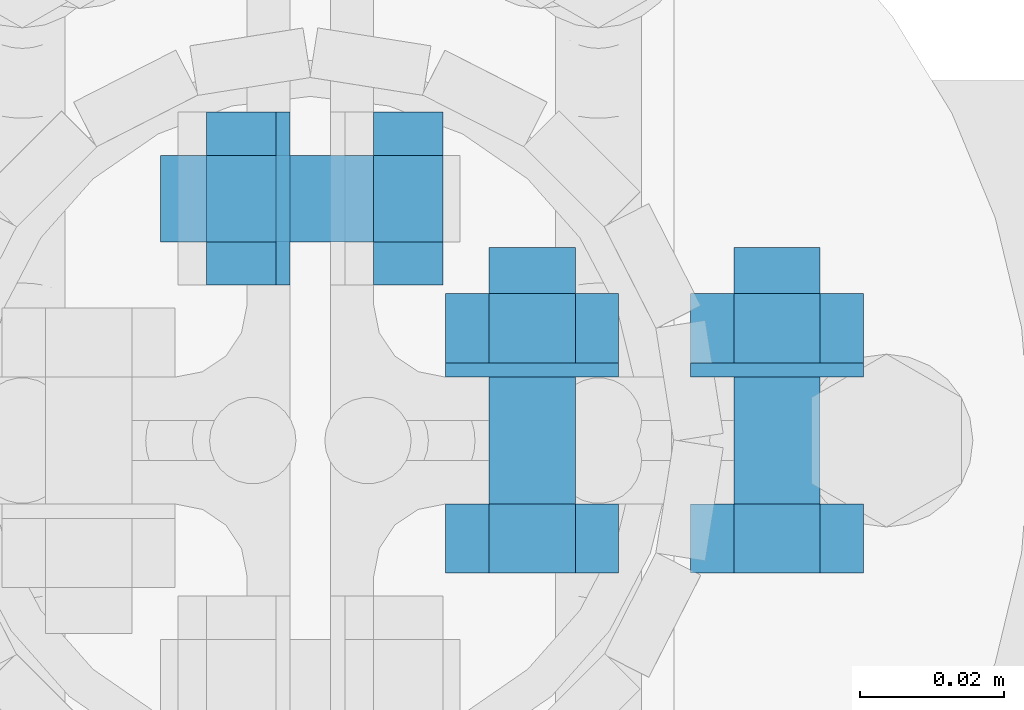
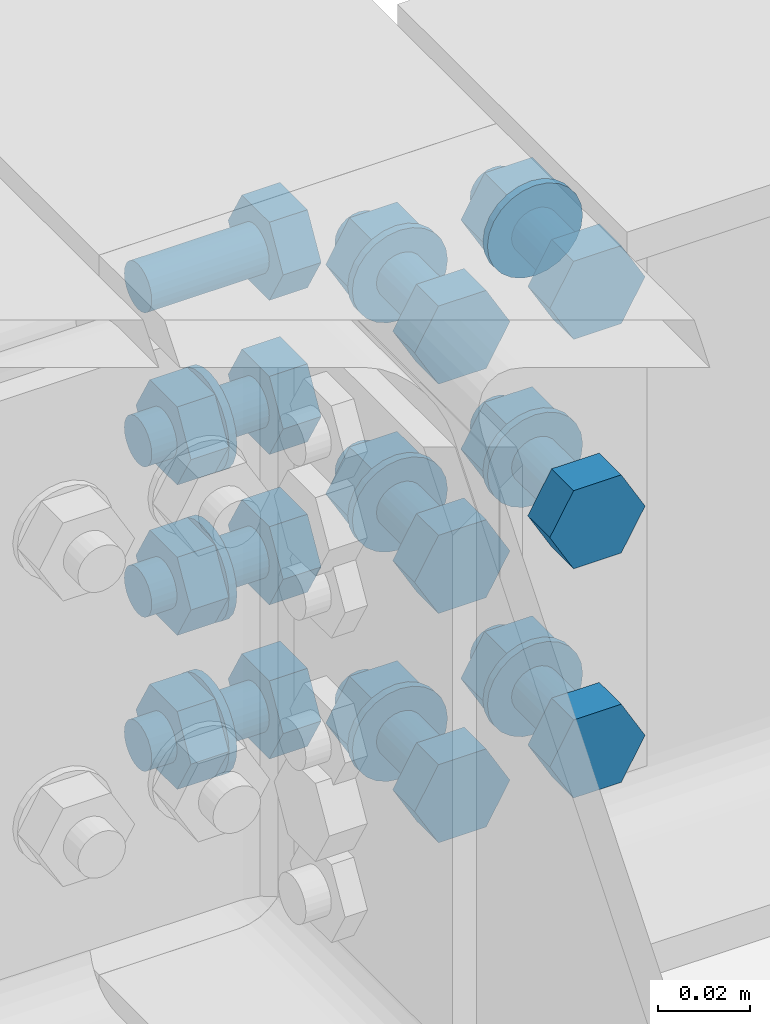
# One storey, part 55 of 84: 39 mechanical fasteners.
"""IFC4 building model written with IfcOpenShell, lengths in metres."""

from ifc_helpers import new_model, si_unit, frame, origin_with_axes, place, context, project, spatial, polyline, outline, extrude, type_object, element, save


model = new_model("IFC4")

# Units and contexts
model_context = context("Model", 3, precision=1e-05, world=origin_with_axes())
ifc_project = project(units=[si_unit("LENGTHUNIT", "METRE"), si_unit("AREAUNIT", "SQUARE_METRE"), si_unit("VOLUMEUNIT", "CUBIC_METRE"), si_unit("MASSUNIT", "GRAM", prefix="KILO"), si_unit("TIMEUNIT", "SECOND"), si_unit("PLANEANGLEUNIT", "RADIAN"), si_unit("SOLIDANGLEUNIT", "STERADIAN"), si_unit("THERMODYNAMICTEMPERATUREUNIT", "DEGREE_CELSIUS")], contexts=[model_context])

# Site, building, storey
placement_1 = place(None, origin_with_axes())
site = spatial("IfcSite", under=ifc_project, at=placement_1, Name="Italia", CompositionType="ELEMENT")
building = spatial("IfcBuilding", under=site, at=placement_1, Name="Tettoia", CompositionType="ELEMENT")
storey_placement = place(None, frame((0.0, 0.0, 4.199999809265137), z_axis=(0.0, 0.0, 1.0), x_axis=(1.0, 0.0, 0.0)))
storey = spatial("IfcBuildingStorey", under=building, at=storey_placement, Name="Storey 1", CompositionType="ELEMENT", Elevation=4.199999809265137)

# Mechanical fasteners
mechanical_fastener_type_1 = type_object("IfcMechanicalFastenerType", Name="Collegamento 0112_-016", PredefinedType="BOLT")
placement_2 = place(placement_1, origin_with_axes())
mechanical_fastener_1_placement = place(placement_2, origin_with_axes())
element("IfcMechanicalFastener", 1, at=mechanical_fastener_1_placement, inside=storey, type_object=mechanical_fastener_type_1, Name="Collegamento 0112_-016", NominalDiameter=0.024, context=model_context, shape_type="SweptSolid", body=[
    extrude(outline(polyline([(0.0, 0.0), (-0.000409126, -0.00310564), (-0.00160789, -0.00600004), (-0.00351477, -0.00848532), (-0.00600004, -0.0103922), (-0.00889444, -0.011591), (-0.0120001, -0.0120001), (-0.0151057, -0.011591), (-0.0180001, -0.0103922), (-0.0204854, -0.00848532), (-0.0223923, -0.00600004), (-0.023591, -0.00310564), (-0.0240002, 0.0), (-0.023591, 0.00310564), (-0.0223923, 0.00600004), (-0.0204854, 0.00848532), (-0.0180001, 0.0103922), (-0.0151057, 0.011591), (-0.0120001, 0.0120001), (-0.00889444, 0.011591), (-0.00600004, 0.0103922), (-0.00351477, 0.00848532), (-0.00160789, 0.00600004), (-0.000409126, 0.00310564), (0.0, 0.0)])), frame((4.1468, 13.9608, 4.361), z_axis=(0.0, -1.0, 0.0), x_axis=(1.0, 0.0, 0.0)), (0.0, 0.0, 1.0), 0.00200081),
])
mechanical_fastener_type_2 = type_object("IfcMechanicalFastenerType", Name="Collegamento 0112_-016", PredefinedType="BOLT")
mechanical_fastener_2_placement = place(placement_2, origin_with_axes())
element("IfcMechanicalFastener", 2, at=mechanical_fastener_2_placement, inside=storey, type_object=mechanical_fastener_type_2, Name="Collegamento 0112_-016", NominalDiameter=0.0119999, context=model_context, shape_type="SweptSolid", body=[
    extrude(outline(polyline([(0.0, 0.0), (-0.0120001, 0.0), (-0.0180001, 0.0103927), (-0.0120001, 0.0207849), (0.0, 0.0207849), (0.00600004, 0.0103927), (0.0, 0.0)])), frame((4.1068, 13.9412, 4.22861), z_axis=(0.0, -1.0, 0.0), x_axis=(1.0, 0.0, 0.0)), (0.0, 0.0, 1.0), 0.00960064),
])
mechanical_fastener_type_3 = type_object("IfcMechanicalFastenerType", Name="Collegamento 0112_-016", PredefinedType="BOLT")
mechanical_fastener_3_placement = place(placement_2, origin_with_axes())
element("IfcMechanicalFastener", 3, at=mechanical_fastener_3_placement, inside=storey, type_object=mechanical_fastener_type_3, Name="Collegamento 0112_-016", NominalDiameter=0.012, context=model_context, shape_type="SweptSolid", body=[
    extrude(outline(polyline([(0.0, 0.0), (-0.000204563, -0.00155306), (-0.000803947, -0.00299978), (-0.00175762, -0.00424242), (-0.00300026, -0.00519609), (-0.00444698, -0.00579548), (-0.00600004, -0.00600004), (-0.0075531, -0.00579548), (-0.00899982, -0.00519609), (-0.0102425, -0.00424242), (-0.0111961, -0.00299978), (-0.0117955, -0.00155306), (-0.0120001, 0.0), (-0.0117955, 0.00155306), (-0.0111961, 0.00299978), (-0.0102425, 0.00424242), (-0.00899982, 0.00519609), (-0.0075531, 0.00579548), (-0.00600004, 0.00600004), (-0.00444698, 0.00579548), (-0.00300026, 0.00519609), (-0.00175762, 0.00424242), (-0.000803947, 0.00299978), (-0.000204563, 0.00155306), (0.0, 0.0)])), frame((4.1068, 13.9768, 4.239), z_axis=(0.0, -1.0, 0.0), x_axis=(1.0, 0.0, 0.0)), (0.0, 0.0, 1.0), 0.0355997),
])
mechanical_fastener_type_4 = type_object("IfcMechanicalFastenerType", Name="Collegamento 0112_-016", PredefinedType="BOLT")
mechanical_fastener_4_placement = place(placement_2, origin_with_axes())
element("IfcMechanicalFastener", 4, at=mechanical_fastener_4_placement, inside=storey, type_object=mechanical_fastener_type_4, Name="Collegamento 0112_-016", NominalDiameter=0.0119999, context=model_context, shape_type="SweptSolid", body=[
    extrude(outline(polyline([(0.0, 0.0), (-0.0120001, 0.0), (-0.0180001, 0.0103927), (-0.0120001, 0.0207849), (0.0, 0.0207849), (0.00600004, 0.0103927), (0.0, 0.0)])), frame((4.1068, 13.9704, 4.22861), z_axis=(0.0, -1.0, 0.0), x_axis=(1.0, 0.0, 0.0)), (0.0, 0.0, 1.0), 0.00959969),
])
mechanical_fastener_type_5 = type_object("IfcMechanicalFastenerType", Name="Collegamento 0112_-016", PredefinedType="BOLT")
mechanical_fastener_5_placement = place(placement_2, origin_with_axes())
element("IfcMechanicalFastener", 5, at=mechanical_fastener_5_placement, inside=storey, type_object=mechanical_fastener_type_5, Name="Collegamento 0112_-016", NominalDiameter=0.024, context=model_context, shape_type="SweptSolid", body=[
    extrude(outline(polyline([(0.0, 0.0), (-0.000409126, -0.00310564), (-0.00160789, -0.00600004), (-0.00351477, -0.00848532), (-0.00600004, -0.0103922), (-0.00889444, -0.011591), (-0.0120001, -0.0120001), (-0.0151057, -0.011591), (-0.0180001, -0.0103922), (-0.0204854, -0.00848532), (-0.0223923, -0.00600004), (-0.023591, -0.00310564), (-0.0240002, 0.0), (-0.023591, 0.00310564), (-0.0223923, 0.00600004), (-0.0204854, 0.00848532), (-0.0180001, 0.0103922), (-0.0151057, 0.011591), (-0.0120001, 0.0120001), (-0.00889444, 0.011591), (-0.00600004, 0.0103922), (-0.00351477, 0.00848532), (-0.00160789, 0.00600004), (-0.000409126, 0.00310564), (0.0, 0.0)])), frame((4.1128, 13.9608, 4.239), z_axis=(0.0, -1.0, 0.0), x_axis=(1.0, 0.0, 0.0)), (0.0, 0.0, 1.0), 0.00200081),
])
mechanical_fastener_type_6 = type_object("IfcMechanicalFastenerType", Name="Collegamento 0112_-016", PredefinedType="BOLT")
mechanical_fastener_6_placement = place(placement_2, origin_with_axes())
element("IfcMechanicalFastener", 6, at=mechanical_fastener_6_placement, inside=storey, type_object=mechanical_fastener_type_6, Name="Collegamento 0112_-016", NominalDiameter=0.0119999, context=model_context, shape_type="SweptSolid", body=[
    extrude(outline(polyline([(0.0, 0.0), (-0.0120001, 0.0), (-0.0180001, 0.0103922), (-0.0120001, 0.0207844), (0.0, 0.0207844), (0.00600004, 0.0103922), (0.0, 0.0)])), frame((4.1068, 13.9412, 4.28961), z_axis=(0.0, -1.0, 0.0), x_axis=(1.0, 0.0, 0.0)), (0.0, 0.0, 1.0), 0.00960064),
])
mechanical_fastener_type_7 = type_object("IfcMechanicalFastenerType", Name="Collegamento 0112_-016", PredefinedType="BOLT")
mechanical_fastener_7_placement = place(placement_2, origin_with_axes())
element("IfcMechanicalFastener", 7, at=mechanical_fastener_7_placement, inside=storey, type_object=mechanical_fastener_type_7, Name="Collegamento 0112_-016", NominalDiameter=0.012, context=model_context, shape_type="SweptSolid", body=[
    extrude(outline(polyline([(0.0, 0.0), (-0.000204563, -0.00155306), (-0.000803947, -0.00299978), (-0.00175762, -0.00424242), (-0.00300026, -0.00519609), (-0.00444698, -0.00579548), (-0.00600004, -0.00600004), (-0.0075531, -0.00579548), (-0.00899982, -0.00519609), (-0.0102425, -0.00424242), (-0.0111961, -0.00299978), (-0.0117955, -0.00155306), (-0.0120001, 0.0), (-0.0117955, 0.00155306), (-0.0111961, 0.00299978), (-0.0102425, 0.00424242), (-0.00899982, 0.00519609), (-0.0075531, 0.00579548), (-0.00600004, 0.00600004), (-0.00444698, 0.00579548), (-0.00300026, 0.00519609), (-0.00175762, 0.00424242), (-0.000803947, 0.00299978), (-0.000204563, 0.00155306), (0.0, 0.0)])), frame((4.1068, 13.9768, 4.3), z_axis=(0.0, -1.0, 0.0), x_axis=(1.0, 0.0, 0.0)), (0.0, 0.0, 1.0), 0.0355997),
])
mechanical_fastener_type_8 = type_object("IfcMechanicalFastenerType", Name="Collegamento 0112_-016", PredefinedType="BOLT")
mechanical_fastener_8_placement = place(placement_2, origin_with_axes())
element("IfcMechanicalFastener", 8, at=mechanical_fastener_8_placement, inside=storey, type_object=mechanical_fastener_type_8, Name="Collegamento 0112_-016", NominalDiameter=0.0119999, context=model_context, shape_type="SweptSolid", body=[
    extrude(outline(polyline([(0.0, 0.0), (-0.0120001, 0.0), (-0.0180001, 0.0103922), (-0.0120001, 0.0207844), (0.0, 0.0207844), (0.00600004, 0.0103922), (0.0, 0.0)])), frame((4.1068, 13.9704, 4.28961), z_axis=(0.0, -1.0, 0.0), x_axis=(1.0, 0.0, 0.0)), (0.0, 0.0, 1.0), 0.00959969),
])
mechanical_fastener_type_9 = type_object("IfcMechanicalFastenerType", Name="Collegamento 0112_-016", PredefinedType="BOLT")
mechanical_fastener_9_placement = place(placement_2, origin_with_axes())
element("IfcMechanicalFastener", 9, at=mechanical_fastener_9_placement, inside=storey, type_object=mechanical_fastener_type_9, Name="Collegamento 0112_-016", NominalDiameter=0.024, context=model_context, shape_type="SweptSolid", body=[
    extrude(outline(polyline([(0.0, 0.0), (-0.000409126, -0.00310564), (-0.00160789, -0.00600004), (-0.00351477, -0.00848532), (-0.00600004, -0.0103922), (-0.00889444, -0.011591), (-0.0120001, -0.0120001), (-0.0151057, -0.011591), (-0.0180001, -0.0103922), (-0.0204854, -0.00848532), (-0.0223923, -0.00600004), (-0.023591, -0.00310564), (-0.0240002, 0.0), (-0.023591, 0.00310564), (-0.0223923, 0.00600004), (-0.0204854, 0.00848532), (-0.0180001, 0.0103922), (-0.0151057, 0.011591), (-0.0120001, 0.0120001), (-0.00889444, 0.011591), (-0.00600004, 0.0103922), (-0.00351477, 0.00848532), (-0.00160789, 0.00600004), (-0.000409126, 0.00310564), (0.0, 0.0)])), frame((4.1128, 13.9608, 4.3), z_axis=(0.0, -1.0, 0.0), x_axis=(1.0, 0.0, 0.0)), (0.0, 0.0, 1.0), 0.00200081),
])
mechanical_fastener_type_10 = type_object("IfcMechanicalFastenerType", Name="Collegamento 0112_-016", PredefinedType="BOLT")
mechanical_fastener_10_placement = place(placement_2, origin_with_axes())
element("IfcMechanicalFastener", 10, at=mechanical_fastener_10_placement, inside=storey, type_object=mechanical_fastener_type_10, Name="Collegamento 0112_-016", NominalDiameter=0.0119999, context=model_context, shape_type="SweptSolid", body=[
    extrude(outline(polyline([(0.0, 0.0), (-0.0120001, 0.0), (-0.0180001, 0.0103922), (-0.0120001, 0.0207849), (0.0, 0.0207849), (0.00600004, 0.0103922), (0.0, 0.0)])), frame((4.1068, 13.9412, 4.35061), z_axis=(0.0, -1.0, 0.0), x_axis=(1.0, 0.0, 0.0)), (0.0, 0.0, 1.0), 0.00960064),
])
mechanical_fastener_type_11 = type_object("IfcMechanicalFastenerType", Name="Collegamento 0112_-016", PredefinedType="BOLT")
mechanical_fastener_11_placement = place(placement_2, origin_with_axes())
element("IfcMechanicalFastener", 11, at=mechanical_fastener_11_placement, inside=storey, type_object=mechanical_fastener_type_11, Name="Collegamento 0112_-016", NominalDiameter=0.012, context=model_context, shape_type="SweptSolid", body=[
    extrude(outline(polyline([(0.0, 0.0), (-0.000204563, -0.00155306), (-0.000803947, -0.00299978), (-0.00175762, -0.00424242), (-0.00300026, -0.00519609), (-0.00444698, -0.00579548), (-0.00600004, -0.00600004), (-0.0075531, -0.00579548), (-0.00899982, -0.00519609), (-0.0102425, -0.00424242), (-0.0111961, -0.00299978), (-0.0117955, -0.00155306), (-0.0120001, 0.0), (-0.0117955, 0.00155306), (-0.0111961, 0.00299978), (-0.0102425, 0.00424242), (-0.00899982, 0.00519609), (-0.0075531, 0.00579548), (-0.00600004, 0.00600004), (-0.00444698, 0.00579548), (-0.00300026, 0.00519609), (-0.00175762, 0.00424242), (-0.000803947, 0.00299978), (-0.000204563, 0.00155306), (0.0, 0.0)])), frame((4.1068, 13.9768, 4.361), z_axis=(0.0, -1.0, 0.0), x_axis=(1.0, 0.0, 0.0)), (0.0, 0.0, 1.0), 0.0355997),
])
mechanical_fastener_type_12 = type_object("IfcMechanicalFastenerType", Name="Collegamento 0112_-016", PredefinedType="BOLT")
mechanical_fastener_12_placement = place(placement_2, origin_with_axes())
element("IfcMechanicalFastener", 12, at=mechanical_fastener_12_placement, inside=storey, type_object=mechanical_fastener_type_12, Name="Collegamento 0112_-016", NominalDiameter=0.0119999, context=model_context, shape_type="SweptSolid", body=[
    extrude(outline(polyline([(0.0, 0.0), (-0.0120001, 0.0), (-0.0180001, 0.0103922), (-0.0120001, 0.0207849), (0.0, 0.0207849), (0.00600004, 0.0103922), (0.0, 0.0)])), frame((4.1068, 13.9704, 4.35061), z_axis=(0.0, -1.0, 0.0), x_axis=(1.0, 0.0, 0.0)), (0.0, 0.0, 1.0), 0.00959969),
])
mechanical_fastener_type_13 = type_object("IfcMechanicalFastenerType", Name="Collegamento 0112_-016", PredefinedType="BOLT")
mechanical_fastener_13_placement = place(placement_2, origin_with_axes())
element("IfcMechanicalFastener", 13, at=mechanical_fastener_13_placement, inside=storey, type_object=mechanical_fastener_type_13, Name="Collegamento 0112_-016", NominalDiameter=0.024, context=model_context, shape_type="SweptSolid", body=[
    extrude(outline(polyline([(0.0, 0.0), (-0.000409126, -0.00310564), (-0.00160789, -0.00600004), (-0.00351477, -0.00848532), (-0.00600004, -0.0103922), (-0.00889444, -0.011591), (-0.0120001, -0.0120001), (-0.0151057, -0.011591), (-0.0180001, -0.0103922), (-0.0204854, -0.00848532), (-0.0223923, -0.00600004), (-0.023591, -0.00310564), (-0.0240002, 0.0), (-0.023591, 0.00310564), (-0.0223923, 0.00600004), (-0.0204854, 0.00848532), (-0.0180001, 0.0103922), (-0.0151057, 0.011591), (-0.0120001, 0.0120001), (-0.00889444, 0.011591), (-0.00600004, 0.0103922), (-0.00351477, 0.00848532), (-0.00160789, 0.00600004), (-0.000409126, 0.00310564), (0.0, 0.0)])), frame((4.1128, 13.9608, 4.361), z_axis=(0.0, -1.0, 0.0), x_axis=(1.0, 0.0, 0.0)), (0.0, 0.0, 1.0), 0.00200081),
])
mechanical_fastener_type_14 = type_object("IfcMechanicalFastenerType", Name="Collegamento 0112_-016", PredefinedType="BOLT")
mechanical_fastener_14_placement = place(placement_2, origin_with_axes())
element("IfcMechanicalFastener", 14, at=mechanical_fastener_14_placement, inside=storey, type_object=mechanical_fastener_type_14, Name="Collegamento 0112_-016", NominalDiameter=0.0119996, context=model_context, shape_type="SweptSolid", body=[
    extrude(outline(polyline([(0.0, 0.0), (-0.0119996, 0.0), (-0.0179996, 0.0103927), (-0.0119996, 0.0207849), (0.0, 0.0207849), (0.00600004, 0.0103927), (0.0, 0.0)])), frame((4.1408, 13.9412, 4.22861), z_axis=(0.0, -1.0, 0.0), x_axis=(1.0, 0.0, 0.0)), (0.0, 0.0, 1.0), 0.00960064),
])
mechanical_fastener_type_15 = type_object("IfcMechanicalFastenerType", Name="Collegamento 0112_-016", PredefinedType="BOLT")
mechanical_fastener_15_placement = place(placement_2, origin_with_axes())
element("IfcMechanicalFastener", 15, at=mechanical_fastener_15_placement, inside=storey, type_object=mechanical_fastener_type_15, Name="Collegamento 0112_-016", NominalDiameter=0.012, context=model_context, shape_type="SweptSolid", body=[
    extrude(outline(polyline([(0.0, 0.0), (-0.000204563, -0.00155306), (-0.000803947, -0.00299978), (-0.00175762, -0.00424242), (-0.00300026, -0.00519609), (-0.00444698, -0.00579548), (-0.00600004, -0.00600004), (-0.0075531, -0.00579548), (-0.00899982, -0.00519609), (-0.0102425, -0.00424242), (-0.0111961, -0.00299978), (-0.0117955, -0.00155306), (-0.0120001, 0.0), (-0.0117955, 0.00155306), (-0.0111961, 0.00299978), (-0.0102425, 0.00424242), (-0.00899982, 0.00519609), (-0.0075531, 0.00579548), (-0.00600004, 0.00600004), (-0.00444698, 0.00579548), (-0.00300026, 0.00519609), (-0.00175762, 0.00424242), (-0.000803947, 0.00299978), (-0.000204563, 0.00155306), (0.0, 0.0)])), frame((4.1408, 13.9768, 4.239), z_axis=(0.0, -1.0, 0.0), x_axis=(1.0, 0.0, 0.0)), (0.0, 0.0, 1.0), 0.0355997),
])
mechanical_fastener_type_16 = type_object("IfcMechanicalFastenerType", Name="Collegamento 0112_-016", PredefinedType="BOLT")
mechanical_fastener_16_placement = place(placement_2, origin_with_axes())
element("IfcMechanicalFastener", 16, at=mechanical_fastener_16_placement, inside=storey, type_object=mechanical_fastener_type_16, Name="Collegamento 0112_-016", NominalDiameter=0.0119996, context=model_context, shape_type="SweptSolid", body=[
    extrude(outline(polyline([(0.0, 0.0), (-0.0119996, 0.0), (-0.0179996, 0.0103927), (-0.0119996, 0.0207849), (0.0, 0.0207849), (0.00600004, 0.0103927), (0.0, 0.0)])), frame((4.1408, 13.9704, 4.22861), z_axis=(0.0, -1.0, 0.0), x_axis=(1.0, 0.0, 0.0)), (0.0, 0.0, 1.0), 0.00959969),
])
mechanical_fastener_type_17 = type_object("IfcMechanicalFastenerType", Name="Collegamento 0112_-016", PredefinedType="BOLT")
mechanical_fastener_17_placement = place(placement_2, origin_with_axes())
element("IfcMechanicalFastener", 17, at=mechanical_fastener_17_placement, inside=storey, type_object=mechanical_fastener_type_17, Name="Collegamento 0112_-016", NominalDiameter=0.024, context=model_context, shape_type="SweptSolid", body=[
    extrude(outline(polyline([(0.0, 0.0), (-0.000409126, -0.00310564), (-0.00160789, -0.00600004), (-0.00351477, -0.00848532), (-0.00600004, -0.0103922), (-0.00889444, -0.011591), (-0.0120001, -0.0120001), (-0.0151057, -0.011591), (-0.0180001, -0.0103922), (-0.0204854, -0.00848532), (-0.0223923, -0.00600004), (-0.023591, -0.00310564), (-0.0240002, 0.0), (-0.023591, 0.00310564), (-0.0223923, 0.00600004), (-0.0204854, 0.00848532), (-0.0180001, 0.0103922), (-0.0151057, 0.011591), (-0.0120001, 0.0120001), (-0.00889444, 0.011591), (-0.00600004, 0.0103922), (-0.00351477, 0.00848532), (-0.00160789, 0.00600004), (-0.000409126, 0.00310564), (0.0, 0.0)])), frame((4.1468, 13.9608, 4.239), z_axis=(0.0, -1.0, 0.0), x_axis=(1.0, 0.0, 0.0)), (0.0, 0.0, 1.0), 0.00200081),
])
mechanical_fastener_type_18 = type_object("IfcMechanicalFastenerType", Name="Collegamento 0112_-016", PredefinedType="BOLT")
mechanical_fastener_18_placement = place(placement_2, origin_with_axes())
element("IfcMechanicalFastener", 18, at=mechanical_fastener_18_placement, inside=storey, type_object=mechanical_fastener_type_18, Name="Collegamento 0112_-016", NominalDiameter=0.0119996, context=model_context, shape_type="SweptSolid", body=[
    extrude(outline(polyline([(0.0, 0.0), (-0.0119996, 0.0), (-0.0179996, 0.0103922), (-0.0119996, 0.0207844), (0.0, 0.0207844), (0.00600004, 0.0103922), (0.0, 0.0)])), frame((4.1408, 13.9412, 4.28961), z_axis=(0.0, -1.0, 0.0), x_axis=(1.0, 0.0, 0.0)), (0.0, 0.0, 1.0), 0.00960064),
])
mechanical_fastener_type_19 = type_object("IfcMechanicalFastenerType", Name="Collegamento 0112_-016", PredefinedType="BOLT")
mechanical_fastener_19_placement = place(placement_2, origin_with_axes())
element("IfcMechanicalFastener", 19, at=mechanical_fastener_19_placement, inside=storey, type_object=mechanical_fastener_type_19, Name="Collegamento 0112_-016", NominalDiameter=0.012, context=model_context, shape_type="SweptSolid", body=[
    extrude(outline(polyline([(0.0, 0.0), (-0.000204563, -0.00155306), (-0.000803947, -0.00299978), (-0.00175762, -0.00424242), (-0.00300026, -0.00519609), (-0.00444698, -0.00579548), (-0.00600004, -0.00600004), (-0.0075531, -0.00579548), (-0.00899982, -0.00519609), (-0.0102425, -0.00424242), (-0.0111961, -0.00299978), (-0.0117955, -0.00155306), (-0.0120001, 0.0), (-0.0117955, 0.00155306), (-0.0111961, 0.00299978), (-0.0102425, 0.00424242), (-0.00899982, 0.00519609), (-0.0075531, 0.00579548), (-0.00600004, 0.00600004), (-0.00444698, 0.00579548), (-0.00300026, 0.00519609), (-0.00175762, 0.00424242), (-0.000803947, 0.00299978), (-0.000204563, 0.00155306), (0.0, 0.0)])), frame((4.1408, 13.9768, 4.3), z_axis=(0.0, -1.0, 0.0), x_axis=(1.0, 0.0, 0.0)), (0.0, 0.0, 1.0), 0.0355997),
])
mechanical_fastener_type_20 = type_object("IfcMechanicalFastenerType", Name="Collegamento 0112_-016", PredefinedType="BOLT")
mechanical_fastener_20_placement = place(placement_2, origin_with_axes())
element("IfcMechanicalFastener", 20, at=mechanical_fastener_20_placement, inside=storey, type_object=mechanical_fastener_type_20, Name="Collegamento 0112_-016", NominalDiameter=0.0119996, context=model_context, shape_type="SweptSolid", body=[
    extrude(outline(polyline([(0.0, 0.0), (-0.0119996, 0.0), (-0.0179996, 0.0103922), (-0.0119996, 0.0207844), (0.0, 0.0207844), (0.00600004, 0.0103922), (0.0, 0.0)])), frame((4.1408, 13.9704, 4.28961), z_axis=(0.0, -1.0, 0.0), x_axis=(1.0, 0.0, 0.0)), (0.0, 0.0, 1.0), 0.00959969),
])
mechanical_fastener_type_21 = type_object("IfcMechanicalFastenerType", Name="Collegamento 0112_-016", PredefinedType="BOLT")
mechanical_fastener_21_placement = place(placement_2, origin_with_axes())
element("IfcMechanicalFastener", 21, at=mechanical_fastener_21_placement, inside=storey, type_object=mechanical_fastener_type_21, Name="Collegamento 0112_-016", NominalDiameter=0.024, context=model_context, shape_type="SweptSolid", body=[
    extrude(outline(polyline([(0.0, 0.0), (-0.000409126, -0.00310564), (-0.00160789, -0.00600004), (-0.00351477, -0.00848532), (-0.00600004, -0.0103922), (-0.00889444, -0.011591), (-0.0120001, -0.0120001), (-0.0151057, -0.011591), (-0.0180001, -0.0103922), (-0.0204854, -0.00848532), (-0.0223923, -0.00600004), (-0.023591, -0.00310564), (-0.0240002, 0.0), (-0.023591, 0.00310564), (-0.0223923, 0.00600004), (-0.0204854, 0.00848532), (-0.0180001, 0.0103922), (-0.0151057, 0.011591), (-0.0120001, 0.0120001), (-0.00889444, 0.011591), (-0.00600004, 0.0103922), (-0.00351477, 0.00848532), (-0.00160789, 0.00600004), (-0.000409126, 0.00310564), (0.0, 0.0)])), frame((4.1468, 13.9608, 4.3), z_axis=(0.0, -1.0, 0.0), x_axis=(1.0, 0.0, 0.0)), (0.0, 0.0, 1.0), 0.00200081),
])
mechanical_fastener_type_22 = type_object("IfcMechanicalFastenerType", Name="Collegamento 0112_-016", PredefinedType="BOLT")
mechanical_fastener_22_placement = place(placement_2, origin_with_axes())
element("IfcMechanicalFastener", 22, at=mechanical_fastener_22_placement, inside=storey, type_object=mechanical_fastener_type_22, Name="Collegamento 0112_-016", NominalDiameter=0.0119996, context=model_context, shape_type="SweptSolid", body=[
    extrude(outline(polyline([(0.0, 0.0), (-0.0119996, 0.0), (-0.0179996, 0.0103922), (-0.0119996, 0.0207849), (0.0, 0.0207849), (0.00600004, 0.0103922), (0.0, 0.0)])), frame((4.1408, 13.9412, 4.35061), z_axis=(0.0, -1.0, 0.0), x_axis=(1.0, 0.0, 0.0)), (0.0, 0.0, 1.0), 0.00960064),
])
mechanical_fastener_type_23 = type_object("IfcMechanicalFastenerType", Name="Collegamento 0112_-016", PredefinedType="BOLT")
mechanical_fastener_23_placement = place(placement_2, origin_with_axes())
element("IfcMechanicalFastener", 23, at=mechanical_fastener_23_placement, inside=storey, type_object=mechanical_fastener_type_23, Name="Collegamento 0112_-016", NominalDiameter=0.012, context=model_context, shape_type="SweptSolid", body=[
    extrude(outline(polyline([(0.0, 0.0), (-0.000204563, -0.00155306), (-0.000803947, -0.00299978), (-0.00175762, -0.00424242), (-0.00300026, -0.00519609), (-0.00444698, -0.00579548), (-0.00600004, -0.00600004), (-0.0075531, -0.00579548), (-0.00899982, -0.00519609), (-0.0102425, -0.00424242), (-0.0111961, -0.00299978), (-0.0117955, -0.00155306), (-0.0120001, 0.0), (-0.0117955, 0.00155306), (-0.0111961, 0.00299978), (-0.0102425, 0.00424242), (-0.00899982, 0.00519609), (-0.0075531, 0.00579548), (-0.00600004, 0.00600004), (-0.00444698, 0.00579548), (-0.00300026, 0.00519609), (-0.00175762, 0.00424242), (-0.000803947, 0.00299978), (-0.000204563, 0.00155306), (0.0, 0.0)])), frame((4.1408, 13.9768, 4.361), z_axis=(0.0, -1.0, 0.0), x_axis=(1.0, 0.0, 0.0)), (0.0, 0.0, 1.0), 0.0355997),
])
mechanical_fastener_type_24 = type_object("IfcMechanicalFastenerType", Name="Collegamento 0112_-016", PredefinedType="BOLT")
mechanical_fastener_24_placement = place(placement_2, origin_with_axes())
element("IfcMechanicalFastener", 24, at=mechanical_fastener_24_placement, inside=storey, type_object=mechanical_fastener_type_24, Name="Collegamento 0112_-016", NominalDiameter=0.0119996, context=model_context, shape_type="SweptSolid", body=[
    extrude(outline(polyline([(0.0, 0.0), (-0.0119996, 0.0), (-0.0179996, 0.0103922), (-0.0119996, 0.0207849), (0.0, 0.0207849), (0.00600004, 0.0103922), (0.0, 0.0)])), frame((4.1408, 13.9704, 4.35061), z_axis=(0.0, -1.0, 0.0), x_axis=(1.0, 0.0, 0.0)), (0.0, 0.0, 1.0), 0.00959969),
])
mechanical_fastener_type_25 = type_object("IfcMechanicalFastenerType", Name="Collegamento 0112_-016", PredefinedType="BOLT")
mechanical_fastener_25_placement = place(placement_2, origin_with_axes())
element("IfcMechanicalFastener", 25, at=mechanical_fastener_25_placement, inside=storey, type_object=mechanical_fastener_type_25, Name="Collegamento 0112_-016", NominalDiameter=0.024, context=model_context, shape_type="SweptSolid", body=[
    extrude(outline(polyline([(0.0, 0.0), (-0.000409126, -0.00310564), (-0.00160789, -0.00600004), (-0.00351477, -0.00848532), (-0.00600004, -0.0103922), (-0.00889444, -0.011591), (-0.0120001, -0.0120001), (-0.0151057, -0.011591), (-0.0180001, -0.0103922), (-0.0204854, -0.00848532), (-0.0223923, -0.00600004), (-0.023591, -0.00310564), (-0.0240002, 0.0), (-0.023591, 0.00310564), (-0.0223923, 0.00600004), (-0.0204854, 0.00848532), (-0.0180001, 0.0103922), (-0.0151057, 0.011591), (-0.0120001, 0.0120001), (-0.00889444, 0.011591), (-0.00600004, 0.0103922), (-0.00351477, 0.00848532), (-0.00160789, 0.00600004), (-0.000409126, 0.00310564), (0.0, 0.0)])), frame((4.1468, 13.9608, 4.361), z_axis=(0.0, -1.0, 0.0), x_axis=(1.0, 0.0, 0.0)), (0.0, 0.0, 1.0), 0.00200081),
])
mechanical_fastener_type_26 = type_object("IfcMechanicalFastenerType", Name="Collegamento 0112_-016", PredefinedType="BOLT")
mechanical_fastener_26_placement = place(placement_2, origin_with_axes())
element("IfcMechanicalFastener", 26, at=mechanical_fastener_26_placement, inside=storey, type_object=mechanical_fastener_type_26, Name="Collegamento 0112_-016", NominalDiameter=0.0119997, context=model_context, shape_type="SweptSolid", body=[
    extrude(outline(polyline([(0.0, 0.0), (-0.0120001, 0.0), (-0.0180006, 0.0103927), (-0.0120001, 0.0207849), (0.0, 0.0207849), (0.00599957, 0.0103927), (0.0, 0.0)])), frame((4.0788, 13.9896, 4.22861), z_axis=(1.0, 0.0, 0.0), x_axis=(0.0, 1.0, 0.0)), (0.0, 0.0, 1.0), 0.00960016),
])
mechanical_fastener_type_27 = type_object("IfcMechanicalFastenerType", Name="Collegamento 0112_-016", PredefinedType="BOLT")
mechanical_fastener_27_placement = place(placement_2, origin_with_axes())
element("IfcMechanicalFastener", 27, at=mechanical_fastener_27_placement, inside=storey, type_object=mechanical_fastener_type_27, Name="Collegamento 0112_-016", NominalDiameter=0.012, context=model_context, shape_type="SweptSolid", body=[
    extrude(outline(polyline([(0.0, 0.0), (-0.000204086, -0.00155306), (-0.000802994, -0.00299978), (-0.00175667, -0.00424242), (-0.00299931, -0.00519609), (-0.00444698, -0.00579548), (-0.00599957, -0.00600004), (-0.00755215, -0.00579548), (-0.00899982, -0.00519609), (-0.0102425, -0.00424242), (-0.0111961, -0.00299978), (-0.011795, -0.00155306), (-0.0119991, 0.0), (-0.011795, 0.00155306), (-0.0111961, 0.00299978), (-0.0102425, 0.00424242), (-0.00899982, 0.00519609), (-0.00755215, 0.00579548), (-0.00599957, 0.00600004), (-0.00444698, 0.00579548), (-0.00299931, 0.00519609), (-0.00175667, 0.00424242), (-0.000802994, 0.00299978), (-0.000204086, 0.00155306), (0.0, 0.0)])), frame((4.0492, 13.9896, 4.239), z_axis=(1.0, 0.0, 0.0), x_axis=(0.0, 1.0, 0.0)), (0.0, 0.0, 1.0), 0.0296001),
])
mechanical_fastener_type_28 = type_object("IfcMechanicalFastenerType", Name="Collegamento 0112_-016", PredefinedType="BOLT")
mechanical_fastener_28_placement = place(placement_2, origin_with_axes())
element("IfcMechanicalFastener", 28, at=mechanical_fastener_28_placement, inside=storey, type_object=mechanical_fastener_type_28, Name="Collegamento 0112_-016", NominalDiameter=0.0119997, context=model_context, shape_type="SweptSolid", body=[
    extrude(outline(polyline([(0.0, 0.0), (-0.0120001, 0.0), (-0.0180006, 0.0103927), (-0.0120001, 0.0207849), (0.0, 0.0207849), (0.00599957, 0.0103927), (0.0, 0.0)])), frame((4.0556, 13.9896, 4.22861), z_axis=(1.0, 0.0, 0.0), x_axis=(0.0, 1.0, 0.0)), (0.0, 0.0, 1.0), 0.00960016),
])
mechanical_fastener_type_29 = type_object("IfcMechanicalFastenerType", Name="Collegamento 0112_-016", PredefinedType="BOLT")
mechanical_fastener_29_placement = place(placement_2, origin_with_axes())
element("IfcMechanicalFastener", 29, at=mechanical_fastener_29_placement, inside=storey, type_object=mechanical_fastener_type_29, Name="Collegamento 0112_-016", NominalDiameter=0.024, context=model_context, shape_type="SweptSolid", body=[
    extrude(outline(polyline([(0.0, 0.0), (-0.000409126, -0.00310564), (-0.00160789, -0.00600004), (-0.00351524, -0.00848532), (-0.00600052, -0.0103922), (-0.00889397, -0.011591), (-0.0120001, -0.0120001), (-0.0151062, -0.011591), (-0.0179996, -0.0103922), (-0.0204849, -0.00848532), (-0.0223923, -0.00600004), (-0.023591, -0.00310564), (-0.0240002, 0.0), (-0.023591, 0.00310564), (-0.0223923, 0.00600004), (-0.0204849, 0.00848532), (-0.0179996, 0.0103922), (-0.0151062, 0.011591), (-0.0120001, 0.0120001), (-0.00889397, 0.011591), (-0.00600052, 0.0103922), (-0.00351524, 0.00848532), (-0.00160789, 0.00600004), (-0.000409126, 0.00310564), (0.0, 0.0)])), frame((4.0652, 13.9956, 4.239), z_axis=(1.0, 0.0, 0.0), x_axis=(0.0, 1.0, 0.0)), (0.0, 0.0, 1.0), 0.00199986),
])
mechanical_fastener_type_30 = type_object("IfcMechanicalFastenerType", Name="Collegamento 0112_-016", PredefinedType="BOLT")
mechanical_fastener_30_placement = place(placement_2, origin_with_axes())
element("IfcMechanicalFastener", 30, at=mechanical_fastener_30_placement, inside=storey, type_object=mechanical_fastener_type_30, Name="Collegamento 0112_-016", NominalDiameter=0.0119997, context=model_context, shape_type="SweptSolid", body=[
    extrude(outline(polyline([(0.0, 0.0), (-0.0120001, 0.0), (-0.0180006, 0.0103922), (-0.0120001, 0.0207844), (0.0, 0.0207844), (0.00599957, 0.0103922), (0.0, 0.0)])), frame((4.0788, 13.9896, 4.26961), z_axis=(1.0, 0.0, 0.0), x_axis=(0.0, 1.0, 0.0)), (0.0, 0.0, 1.0), 0.00960016),
])
mechanical_fastener_type_31 = type_object("IfcMechanicalFastenerType", Name="Collegamento 0112_-016", PredefinedType="BOLT")
mechanical_fastener_31_placement = place(placement_2, origin_with_axes())
element("IfcMechanicalFastener", 31, at=mechanical_fastener_31_placement, inside=storey, type_object=mechanical_fastener_type_31, Name="Collegamento 0112_-016", NominalDiameter=0.012, context=model_context, shape_type="SweptSolid", body=[
    extrude(outline(polyline([(0.0, 0.0), (-0.000204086, -0.00155306), (-0.000802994, -0.00299978), (-0.00175667, -0.00424242), (-0.00299931, -0.00519609), (-0.00444698, -0.00579548), (-0.00599957, -0.00600004), (-0.00755215, -0.00579548), (-0.00899982, -0.00519609), (-0.0102425, -0.00424242), (-0.0111961, -0.00299978), (-0.011795, -0.00155306), (-0.0119991, 0.0), (-0.011795, 0.00155306), (-0.0111961, 0.00299978), (-0.0102425, 0.00424242), (-0.00899982, 0.00519609), (-0.00755215, 0.00579548), (-0.00599957, 0.00600004), (-0.00444698, 0.00579548), (-0.00299931, 0.00519609), (-0.00175667, 0.00424242), (-0.000802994, 0.00299978), (-0.000204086, 0.00155306), (0.0, 0.0)])), frame((4.0492, 13.9896, 4.28), z_axis=(1.0, 0.0, 0.0), x_axis=(0.0, 1.0, 0.0)), (0.0, 0.0, 1.0), 0.0296001),
])
mechanical_fastener_type_32 = type_object("IfcMechanicalFastenerType", Name="Collegamento 0112_-016", PredefinedType="BOLT")
mechanical_fastener_32_placement = place(placement_2, origin_with_axes())
element("IfcMechanicalFastener", 32, at=mechanical_fastener_32_placement, inside=storey, type_object=mechanical_fastener_type_32, Name="Collegamento 0112_-016", NominalDiameter=0.0119997, context=model_context, shape_type="SweptSolid", body=[
    extrude(outline(polyline([(0.0, 0.0), (-0.0120001, 0.0), (-0.0180006, 0.0103922), (-0.0120001, 0.0207844), (0.0, 0.0207844), (0.00599957, 0.0103922), (0.0, 0.0)])), frame((4.0556, 13.9896, 4.26961), z_axis=(1.0, 0.0, 0.0), x_axis=(0.0, 1.0, 0.0)), (0.0, 0.0, 1.0), 0.00960016),
])
mechanical_fastener_type_33 = type_object("IfcMechanicalFastenerType", Name="Collegamento 0112_-016", PredefinedType="BOLT")
mechanical_fastener_33_placement = place(placement_2, origin_with_axes())
element("IfcMechanicalFastener", 33, at=mechanical_fastener_33_placement, inside=storey, type_object=mechanical_fastener_type_33, Name="Collegamento 0112_-016", NominalDiameter=0.024, context=model_context, shape_type="SweptSolid", body=[
    extrude(outline(polyline([(0.0, 0.0), (-0.000409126, -0.00310564), (-0.00160789, -0.00600004), (-0.00351524, -0.00848532), (-0.00600052, -0.0103922), (-0.00889397, -0.011591), (-0.0120001, -0.0120001), (-0.0151062, -0.011591), (-0.0179996, -0.0103922), (-0.0204849, -0.00848532), (-0.0223923, -0.00600004), (-0.023591, -0.00310564), (-0.0240002, 0.0), (-0.023591, 0.00310564), (-0.0223923, 0.00600004), (-0.0204849, 0.00848532), (-0.0179996, 0.0103922), (-0.0151062, 0.011591), (-0.0120001, 0.0120001), (-0.00889397, 0.011591), (-0.00600052, 0.0103922), (-0.00351524, 0.00848532), (-0.00160789, 0.00600004), (-0.000409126, 0.00310564), (0.0, 0.0)])), frame((4.0652, 13.9956, 4.28), z_axis=(1.0, 0.0, 0.0), x_axis=(0.0, 1.0, 0.0)), (0.0, 0.0, 1.0), 0.00199986),
])
mechanical_fastener_type_34 = type_object("IfcMechanicalFastenerType", Name="Collegamento 0112_-016", PredefinedType="BOLT")
mechanical_fastener_34_placement = place(placement_2, origin_with_axes())
element("IfcMechanicalFastener", 34, at=mechanical_fastener_34_placement, inside=storey, type_object=mechanical_fastener_type_34, Name="Collegamento 0112_-016", NominalDiameter=0.0119997, context=model_context, shape_type="SweptSolid", body=[
    extrude(outline(polyline([(0.0, 0.0), (-0.0120001, 0.0), (-0.0180006, 0.0103922), (-0.0120001, 0.0207844), (0.0, 0.0207844), (0.00599957, 0.0103922), (0.0, 0.0)])), frame((4.0788, 13.9896, 4.30961), z_axis=(1.0, 0.0, 0.0), x_axis=(0.0, 1.0, 0.0)), (0.0, 0.0, 1.0), 0.00960016),
])
mechanical_fastener_type_35 = type_object("IfcMechanicalFastenerType", Name="Collegamento 0112_-016", PredefinedType="BOLT")
mechanical_fastener_35_placement = place(placement_2, origin_with_axes())
element("IfcMechanicalFastener", 35, at=mechanical_fastener_35_placement, inside=storey, type_object=mechanical_fastener_type_35, Name="Collegamento 0112_-016", NominalDiameter=0.012, context=model_context, shape_type="SweptSolid", body=[
    extrude(outline(polyline([(0.0, 0.0), (-0.000204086, -0.00155306), (-0.000802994, -0.00299978), (-0.00175667, -0.00424242), (-0.00299931, -0.00519609), (-0.00444698, -0.00579548), (-0.00599957, -0.00600004), (-0.00755215, -0.00579548), (-0.00899982, -0.00519609), (-0.0102425, -0.00424242), (-0.0111961, -0.00299978), (-0.011795, -0.00155306), (-0.0119991, 0.0), (-0.011795, 0.00155306), (-0.0111961, 0.00299978), (-0.0102425, 0.00424242), (-0.00899982, 0.00519609), (-0.00755215, 0.00579548), (-0.00599957, 0.00600004), (-0.00444698, 0.00579548), (-0.00299931, 0.00519609), (-0.00175667, 0.00424242), (-0.000802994, 0.00299978), (-0.000204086, 0.00155306), (0.0, 0.0)])), frame((4.0492, 13.9896, 4.32), z_axis=(1.0, 0.0, 0.0), x_axis=(0.0, 1.0, 0.0)), (0.0, 0.0, 1.0), 0.0296001),
])
mechanical_fastener_type_36 = type_object("IfcMechanicalFastenerType", Name="Collegamento 0112_-016", PredefinedType="BOLT")
mechanical_fastener_36_placement = place(placement_2, origin_with_axes())
element("IfcMechanicalFastener", 36, at=mechanical_fastener_36_placement, inside=storey, type_object=mechanical_fastener_type_36, Name="Collegamento 0112_-016", NominalDiameter=0.0119997, context=model_context, shape_type="SweptSolid", body=[
    extrude(outline(polyline([(0.0, 0.0), (-0.0120001, 0.0), (-0.0180006, 0.0103922), (-0.0120001, 0.0207844), (0.0, 0.0207844), (0.00599957, 0.0103922), (0.0, 0.0)])), frame((4.0556, 13.9896, 4.30961), z_axis=(1.0, 0.0, 0.0), x_axis=(0.0, 1.0, 0.0)), (0.0, 0.0, 1.0), 0.00960016),
])
mechanical_fastener_type_37 = type_object("IfcMechanicalFastenerType", Name="Collegamento 0112_-016", PredefinedType="BOLT")
mechanical_fastener_37_placement = place(placement_2, origin_with_axes())
element("IfcMechanicalFastener", 37, at=mechanical_fastener_37_placement, inside=storey, type_object=mechanical_fastener_type_37, Name="Collegamento 0112_-016", NominalDiameter=0.024, context=model_context, shape_type="SweptSolid", body=[
    extrude(outline(polyline([(0.0, 0.0), (-0.000409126, -0.00310564), (-0.00160789, -0.00600004), (-0.00351524, -0.00848532), (-0.00600052, -0.0103922), (-0.00889397, -0.011591), (-0.0120001, -0.0120001), (-0.0151062, -0.011591), (-0.0179996, -0.0103922), (-0.0204849, -0.00848532), (-0.0223923, -0.00600004), (-0.023591, -0.00310564), (-0.0240002, 0.0), (-0.023591, 0.00310564), (-0.0223923, 0.00600004), (-0.0204849, 0.00848532), (-0.0179996, 0.0103922), (-0.0151062, 0.011591), (-0.0120001, 0.0120001), (-0.00889397, 0.011591), (-0.00600052, 0.0103922), (-0.00351524, 0.00848532), (-0.00160789, 0.00600004), (-0.000409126, 0.00310564), (0.0, 0.0)])), frame((4.0652, 13.9956, 4.32), z_axis=(1.0, 0.0, 0.0), x_axis=(0.0, 1.0, 0.0)), (0.0, 0.0, 1.0), 0.00199986),
])
mechanical_fastener_type_38 = type_object("IfcMechanicalFastenerType", Name="Collegamento 0112_-016", PredefinedType="BOLT")
mechanical_fastener_38_placement = place(placement_2, origin_with_axes())
element("IfcMechanicalFastener", 38, at=mechanical_fastener_38_placement, inside=storey, type_object=mechanical_fastener_type_38, Name="Collegamento 0112_-016", NominalDiameter=0.0119997, context=model_context, shape_type="SweptSolid", body=[
    extrude(outline(polyline([(0.0, 0.0), (-0.0120001, 0.0), (-0.0180006, 0.0103922), (-0.0120001, 0.0207849), (0.0, 0.0207849), (0.00599957, 0.0103922), (0.0, 0.0)])), frame((4.0788, 13.9896, 4.35061), z_axis=(1.0, 0.0, 0.0), x_axis=(0.0, 1.0, 0.0)), (0.0, 0.0, 1.0), 0.00960016),
])
mechanical_fastener_type_39 = type_object("IfcMechanicalFastenerType", Name="Collegamento 0112_-016", PredefinedType="BOLT")
mechanical_fastener_39_placement = place(placement_2, origin_with_axes())
element("IfcMechanicalFastener", 39, at=mechanical_fastener_39_placement, inside=storey, type_object=mechanical_fastener_type_39, Name="Collegamento 0112_-016", NominalDiameter=0.012, context=model_context, shape_type="SweptSolid", body=[
    extrude(outline(polyline([(0.0, 0.0), (-0.000204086, -0.00155306), (-0.000802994, -0.00299978), (-0.00175667, -0.00424242), (-0.00299931, -0.00519609), (-0.00444698, -0.00579548), (-0.00599957, -0.00600004), (-0.00755215, -0.00579548), (-0.00899982, -0.00519609), (-0.0102425, -0.00424242), (-0.0111961, -0.00299978), (-0.011795, -0.00155306), (-0.0119991, 0.0), (-0.011795, 0.00155306), (-0.0111961, 0.00299978), (-0.0102425, 0.00424242), (-0.00899982, 0.00519609), (-0.00755215, 0.00579548), (-0.00599957, 0.00600004), (-0.00444698, 0.00579548), (-0.00299931, 0.00519609), (-0.00175667, 0.00424242), (-0.000802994, 0.00299978), (-0.000204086, 0.00155306), (0.0, 0.0)])), frame((4.0492, 13.9896, 4.361), z_axis=(1.0, 0.0, 0.0), x_axis=(0.0, 1.0, 0.0)), (0.0, 0.0, 1.0), 0.0296001),
])

save(model, "model.ifc")
